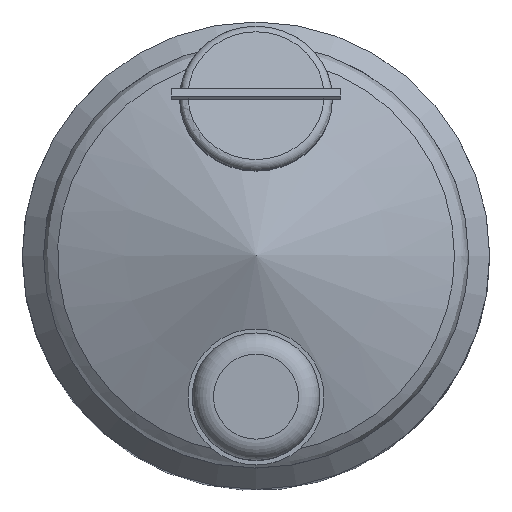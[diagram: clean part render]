
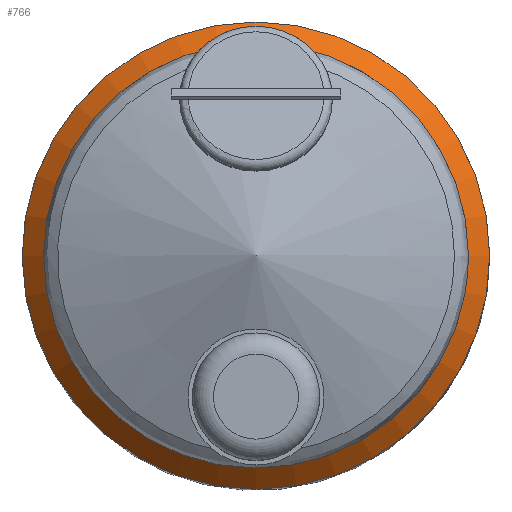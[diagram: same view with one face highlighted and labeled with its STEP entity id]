
A CAD part, top view. The second image highlights one B-rep face of the part: STEP entity #766.
In plain terms, the highlighted conical face has half-angle 45 degrees and reference radius 550 mm.
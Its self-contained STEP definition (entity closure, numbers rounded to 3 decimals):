
#578 = VERTEX_POINT('',#579);
#579 = CARTESIAN_POINT('',(550.,0.,2402.054));
#586 = CYLINDRICAL_SURFACE('',#587,550.);
#587 = AXIS2_PLACEMENT_3D('',#588,#589,#590);
#588 = CARTESIAN_POINT('',(0.,0.,982.026));
#589 = DIRECTION('',(0.,0.,1.));
#590 = DIRECTION('',(1.,0.,0.));
#605 = EDGE_CURVE('',#578,#578,#606,.T.);
#606 = SURFACE_CURVE('',#607,(#612,#619),.PCURVE_S1.);
#607 = CIRCLE('',#608,550.);
#608 = AXIS2_PLACEMENT_3D('',#609,#610,#611);
#609 = CARTESIAN_POINT('',(0.,0.,2402.054));
#610 = DIRECTION('',(0.,0.,1.));
#611 = DIRECTION('',(1.,0.,0.));
#612 = PCURVE('',#586,#613);
#613 = DEFINITIONAL_REPRESENTATION('',(#614),#618);
#614 = LINE('',#615,#616);
#615 = CARTESIAN_POINT('',(0.,1420.028));
#616 = VECTOR('',#617,1.);
#617 = DIRECTION('',(1.,0.));
#618 = ( GEOMETRIC_REPRESENTATION_CONTEXT(2) 
PARAMETRIC_REPRESENTATION_CONTEXT() REPRESENTATION_CONTEXT('2D SPACE',''
  ) );
#619 = PCURVE('',#620,#625);
#620 = CONICAL_SURFACE('',#621,550.,0.785);
#621 = AXIS2_PLACEMENT_3D('',#622,#623,#624);
#622 = CARTESIAN_POINT('',(0.,0.,2402.054));
#623 = DIRECTION('',(-0.,-0.,-1.));
#624 = DIRECTION('',(1.,0.,0.));
#625 = DEFINITIONAL_REPRESENTATION('',(#626),#630);
#626 = LINE('',#627,#628);
#627 = CARTESIAN_POINT('',(-0.,-0.));
#628 = VECTOR('',#629,1.);
#629 = DIRECTION('',(-1.,-0.));
#630 = ( GEOMETRIC_REPRESENTATION_CONTEXT(2) 
PARAMETRIC_REPRESENTATION_CONTEXT() REPRESENTATION_CONTEXT('2D SPACE',''
  ) );
#766 = ADVANCED_FACE('',(#767),#620,.T.);
#767 = FACE_BOUND('',#768,.T.);
#768 = EDGE_LOOP('',(#769,#770,#791,#818));
#769 = ORIENTED_EDGE('',*,*,#605,.T.);
#770 = ORIENTED_EDGE('',*,*,#771,.T.);
#771 = EDGE_CURVE('',#578,#772,#774,.T.);
#772 = VERTEX_POINT('',#773);
#773 = CARTESIAN_POINT('',(500.,0.,2452.054));
#774 = SEAM_CURVE('',#775,(#779,#785),.PCURVE_S1.);
#775 = LINE('',#776,#777);
#776 = CARTESIAN_POINT('',(550.,0.,2402.054));
#777 = VECTOR('',#778,1.);
#778 = DIRECTION('',(-0.707,0.,0.707));
#779 = PCURVE('',#620,#780);
#780 = DEFINITIONAL_REPRESENTATION('',(#781),#784);
#781 = B_SPLINE_CURVE_WITH_KNOTS('',1,(#782,#783),.UNSPECIFIED.,.F.,.F.,
  (2,2),(0.,70.711),.PIECEWISE_BEZIER_KNOTS.);
#782 = CARTESIAN_POINT('',(0.,0.));
#783 = CARTESIAN_POINT('',(0.,-50.));
#784 = ( GEOMETRIC_REPRESENTATION_CONTEXT(2) 
PARAMETRIC_REPRESENTATION_CONTEXT() REPRESENTATION_CONTEXT('2D SPACE',''
  ) );
#785 = PCURVE('',#620,#786);
#786 = DEFINITIONAL_REPRESENTATION('',(#787),#790);
#787 = B_SPLINE_CURVE_WITH_KNOTS('',1,(#788,#789),.UNSPECIFIED.,.F.,.F.,
  (2,2),(0.,70.711),.PIECEWISE_BEZIER_KNOTS.);
#788 = CARTESIAN_POINT('',(-6.283,0.));
#789 = CARTESIAN_POINT('',(-6.283,-50.));
#790 = ( GEOMETRIC_REPRESENTATION_CONTEXT(2) 
PARAMETRIC_REPRESENTATION_CONTEXT() REPRESENTATION_CONTEXT('2D SPACE',''
  ) );
#791 = ORIENTED_EDGE('',*,*,#792,.F.);
#792 = EDGE_CURVE('',#772,#772,#793,.T.);
#793 = SURFACE_CURVE('',#794,(#799,#806),.PCURVE_S1.);
#794 = CIRCLE('',#795,500.);
#795 = AXIS2_PLACEMENT_3D('',#796,#797,#798);
#796 = CARTESIAN_POINT('',(0.,0.,2452.054));
#797 = DIRECTION('',(0.,0.,1.));
#798 = DIRECTION('',(1.,0.,0.));
#799 = PCURVE('',#620,#800);
#800 = DEFINITIONAL_REPRESENTATION('',(#801),#805);
#801 = LINE('',#802,#803);
#802 = CARTESIAN_POINT('',(-0.,-50.));
#803 = VECTOR('',#804,1.);
#804 = DIRECTION('',(-1.,-0.));
#805 = ( GEOMETRIC_REPRESENTATION_CONTEXT(2) 
PARAMETRIC_REPRESENTATION_CONTEXT() REPRESENTATION_CONTEXT('2D SPACE',''
  ) );
#806 = PCURVE('',#807,#812);
#807 = CYLINDRICAL_SURFACE('',#808,500.);
#808 = AXIS2_PLACEMENT_3D('',#809,#810,#811);
#809 = CARTESIAN_POINT('',(0.,0.,982.026));
#810 = DIRECTION('',(0.,0.,1.));
#811 = DIRECTION('',(1.,0.,0.));
#812 = DEFINITIONAL_REPRESENTATION('',(#813),#817);
#813 = LINE('',#814,#815);
#814 = CARTESIAN_POINT('',(0.,1470.028));
#815 = VECTOR('',#816,1.);
#816 = DIRECTION('',(1.,0.));
#817 = ( GEOMETRIC_REPRESENTATION_CONTEXT(2) 
PARAMETRIC_REPRESENTATION_CONTEXT() REPRESENTATION_CONTEXT('2D SPACE',''
  ) );
#818 = ORIENTED_EDGE('',*,*,#771,.F.);
